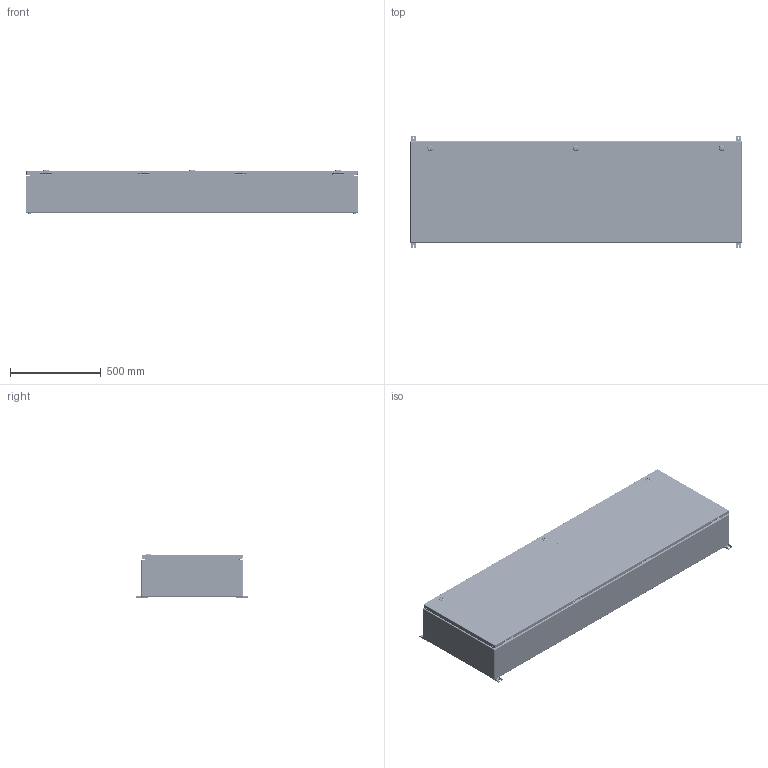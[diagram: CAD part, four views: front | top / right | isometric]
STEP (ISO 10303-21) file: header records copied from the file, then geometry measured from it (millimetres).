
FILE_DESCRIPTION(/* description */ ('1412BTCU 225A - 4 Wires x 72" Assembly'),/* implementation_level */ '2;1');
FILE_NAME(/* name */ 'C:\Vault_Workspace\Inventor_Dwg\BoxCad\Result\1412BTCU06204DT\e-mail\3D\1412BTCU06204DT.stp',/* time_stamp */ '2022-10-18T19:25:41-04:00',/* author */ ('BoxCad'),/* organization */ (''),/* preprocessor_version */ 'ST-DEVELOPER v18.1',/* originating_system */ 'Autodesk Inventor 2020',/* authorisation */ '');
FILE_SCHEMA (('AUTOMOTIVE_DESIGN { 1 0 10303 214 3 1 1 }'));
Products named in the file (52): 1412BTCU06204DT; 1412BTCU06204DTB; 1412BTCU06204DTB-P; STK-Q-16005; 1412BTCU06204DTC; 1412BTCU06204DTC-P; 1412BTCU06204DTG; STK-Q-16080; STK-K-09800; STK-Q-33014; STK-Q-90398; STK-Q-40095; STK-Q-63410; STK-S-00100; STK-P-02400S; STK-A-880SCQ4-SL-1; STK-A-880SCQ4-SL-2; STK-A-880SCQ4-SL-3; STK-Q-78110; STK-Q-78120; STK-Q-78145; STK-Q-03200; STK-Q-78125; STK-Q-78141; STK-Q-90390; STK-Q-78160; 1412BTCU06204DTIP1; 1412BTCU06204DTIP1-P; STK-P-02401S; STK-Q-07610; STK-A-67400; STK-Q-67400; STK-G-22300; STK-Q-67420; STK-Q-40800; STK-Q-67430; STK-Q-07310; 1412BTCU06204DTBAR1-P; 1412BTCU06204DTBAR2-P; 1412BTCU06204DTBAR3-P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
Assembly tree (128 placements, depth 4):
  1412BTCU06204DT
    1412BTCU06204DTB
      1412BTCU06204DTB-P
      STK-Q-16080
      STK-Q-16005  x8
      STK-S-00100
      STK-P-02400S
    1412BTCU06204DTC
      1412BTCU06204DTC-P
      1412BTCU06204DTG
      STK-Q-16080
      STK-K-09800  x4
        STK-Q-33014
        STK-Q-90398
        STK-Q-40095
        STK-Q-63410
      STK-S-00100
      STK-P-02400S
      STK-A-880SCQ4-SL-1
        STK-Q-78110
        STK-Q-78120
        STK-Q-78145
        STK-Q-03200
        STK-Q-78125
        STK-Q-78141
        STK-Q-90390
        STK-Q-78160
      STK-A-880SCQ4-SL-2
        STK-Q-78110
        STK-Q-78120
        STK-Q-78145
        STK-Q-03200
        STK-Q-78125
        STK-Q-78141
        STK-Q-90390
        STK-Q-78160
      STK-A-880SCQ4-SL-3
        STK-Q-78110
        STK-Q-78120
        STK-Q-78145
        STK-Q-03200
        STK-Q-78125
        STK-Q-78141
        STK-Q-90390
        STK-Q-78160
    1412BTCU06204DTIP1
      1412BTCU06204DTIP1-P
      STK-P-02401S
    STK-Q-07610  x6
    STK-Q-07310  x18
    STK-A-67400  x12
      STK-Q-67400
      STK-G-22300
      STK-Q-67420
      STK-Q-40800
      STK-Q-67430
    1412BTCU06204DTBAR1-P
    1412BTCU06204DTBAR2-P
    1412BTCU06204DTBAR3-P
    1412BTCU06204DTBAR4-P
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Bounding box: 1828.8 x 615.95 x 243.4 mm (x, y, z)
Volume: 8882663.4 mm3; surface area: 9121686.3 mm2
Topology: 200 solids, 200 shells, 28843 faces, 75421 edges, 46877 vertices
Faces by surface type: plane 10166, bspline 7833, cylinder 7508, torus 2273, sphere 662, cone 401
Full cylindrical faces by diameter (mm): 0.75 x10, 0.762 x10, 1 x16, 1.1 x16, 3.2 x8, 4.5 x48, 4.521 x16, 4.85 x32, 4.95 x8, 5.1 x37, 5.105 x32, 5.6 x4, 5.9 x78, 6.65 x20, 6.85 x72, 7.3 x4, 7.366 x4, 7.8 x492, 7.9 x8, 8 x34, 8.25 x24, 8.382 x4, 8.6 x12, 9.6 x3, 9.7 x48, 9.906 x4, 10 x3, 10.312 x2, 11.5 x24, 12 x16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
Entity records: 198946 total; most frequent: CARTESIAN_POINT 79236, ORIENTED_EDGE 26422, DIRECTION 21435, EDGE_CURVE 13211, VERTEX_POINT 8364, AXIS2_PLACEMENT_3D 7553, LINE 6329, VECTOR 6329
